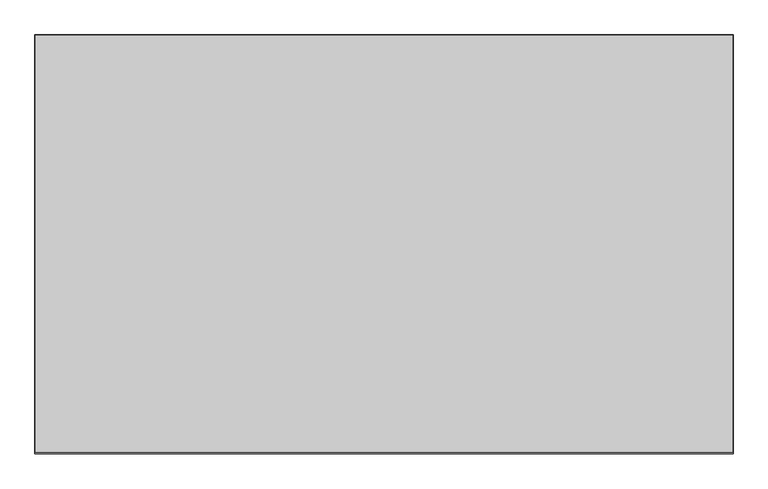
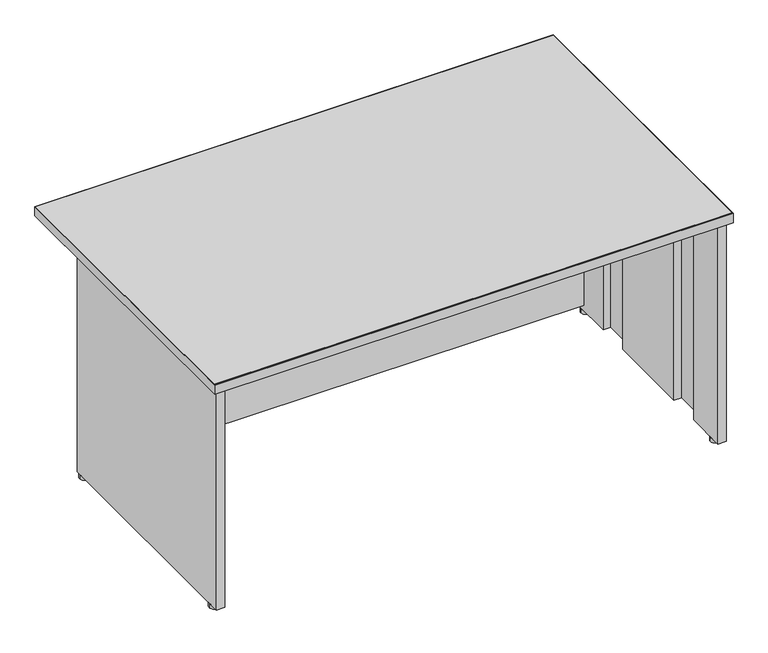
"""IFC4 building model written with IfcOpenShell, lengths in millimetres: furniture geometry, Steelcase - Kick Freestanding - Desk Shell - Full Height Modesty Panel : 36D x 60W."""

from ifc_helpers import new_model, si_unit, point, frame, frame_2d, origin, origin_with_axes, place, context, project, spatial, polyline, circle_curve, trimmed, segment, composite_curve, outline, extrude, source, transform, mapped, element, save


def furniture_0e74eb8e(model_context):
    return source(origin(), model_context, "Body", "SweptSolid", [
        extrude(outline(polyline([(677.0450425, -1152.3647597), (677.0450425, -1126.9647604), (2126.6738425, -1126.9647604), (2126.6738425, -1152.3647597), (677.0450425, -1152.3647597)])), frame((0.0, 0.0, 31.242), z_axis=(0.0, 0.0, 1.0), x_axis=(1.0, 0.0, 0.0)), (0.0, 0.0, 1.0), 663.702),
        extrude(outline(composite_curve([segment(trimmed(circle_curve(frame_2d((665.1357759, -1139.3367877)), 13.97), [point((651.1657759, -1139.3367877))], [point((679.1057759, -1139.3367877))], False, "CARTESIAN"), True, "CONTINUOUS"), segment(trimmed(circle_curve(frame_2d((665.1357759, -1139.3367877)), 13.97), [point((679.1057759, -1139.3367877))], [point((651.1657759, -1139.3367877))], False, "CARTESIAN"), True, "CONTINUOUS")], self_intersect=False)), origin_with_axes(), (0.0, 0.0, 1.0), 12.446),
        extrude(outline(composite_curve([segment(trimmed(circle_curve(frame_2d((665.1357759, -1798.4441481)), 13.97), [point((651.1657759, -1798.4441481))], [point((679.1057759, -1798.4441481))], False, "CARTESIAN"), True, "CONTINUOUS"), segment(trimmed(circle_curve(frame_2d((665.1357759, -1798.4441481)), 13.97), [point((679.1057759, -1798.4441481))], [point((651.1657759, -1798.4441481))], False, "CARTESIAN"), True, "CONTINUOUS")], self_intersect=False)), origin_with_axes(), (0.0, 0.0, 1.0), 12.446),
        extrude(outline(polyline([(2126.6738425, -1248.4529604), (2126.6738425, -1125.1867604), (2151.1594421, -1125.1867604), (2151.1594421, -1833.338741), (2126.6738421, -1833.338741), (2126.6738421, -1709.0311348), (2149.1020425, -1709.0311348), (2149.1020425, -1609.3107682), (2126.6738421, -1609.3107682), (2126.6738421, -1348.1733647), (2149.1020425, -1348.1733647), (2149.1020425, -1248.4529604), (2126.6738425, -1248.4529604)])), frame((0.0, 0.0, 12.446), z_axis=(0.0, 0.0, 1.0), x_axis=(1.0, 0.0, 0.0)), (0.0, 0.0, 1.0), 682.498),
        extrude(outline(polyline([(677.0450425, -1248.4529604), (654.6168425, -1248.4529604), (654.6168425, -1348.1733647), (677.0450429, -1348.1733647), (677.0450429, -1609.3107682), (654.6168425, -1609.3107682), (654.6168425, -1709.0311348), (677.0450429, -1709.0311348), (677.0450429, -1833.338741), (652.5594429, -1833.338741), (652.5594429, -1125.1867604), (677.0450425, -1125.1867604), (677.0450425, -1248.4529604)])), frame((0.0, 0.0, 12.446), z_axis=(0.0, 0.0, 1.0), x_axis=(1.0, 0.0, 0.0)), (0.0, 0.0, 1.0), 682.498),
        extrude(outline(polyline([(2162.8688425, -932.6293604), (2162.8688425, -1843.0669215), (640.8500425, -1843.0669215), (640.8500425, -932.6293604), (2162.8688425, -932.6293604)])), frame((0.0, 0.0, 694.944), z_axis=(0.0, 0.0, 1.0), x_axis=(1.0, 0.0, 0.0)), (0.0, 0.0, 1.0), 28.956),
        extrude(outline(polyline([(2163.8594425, -931.6387604), (2163.8594425, -1846.0387604), (639.8594425, -1846.0387604), (639.8594425, -931.6387604), (2163.8594425, -931.6387604)]), holes=[polyline([(2162.8688425, -932.6293604), (640.8500425, -932.6293604), (640.8500425, -1843.0669215), (2162.8688425, -1843.0669215), (2162.8688425, -932.6293604)])]), frame((0.0, 0.0, 694.944), z_axis=(0.0, 0.0, 1.0), x_axis=(1.0, 0.0, 0.0)), (0.0, 0.0, 1.0), 28.956),
        extrude(outline(composite_curve([segment(trimmed(circle_curve(frame_2d((2138.5831091, -1798.4441481)), 13.97), [point((2124.6131091, -1798.4441481))], [point((2152.5531091, -1798.4441481))], False, "CARTESIAN"), True, "CONTINUOUS"), segment(trimmed(circle_curve(frame_2d((2138.5831091, -1798.4441481)), 13.97), [point((2152.5531091, -1798.4441481))], [point((2124.6131091, -1798.4441481))], False, "CARTESIAN"), True, "CONTINUOUS")], self_intersect=False)), origin_with_axes(), (0.0, 0.0, 1.0), 12.446),
        extrude(outline(composite_curve([segment(trimmed(circle_curve(frame_2d((2138.5831091, -1139.3367877)), 13.97), [point((2152.5531091, -1139.3367877))], [point((2124.6131091, -1139.3367877))], False, "CARTESIAN"), True, "CONTINUOUS"), segment(trimmed(circle_curve(frame_2d((2138.5831091, -1139.3367877)), 13.97), [point((2124.6131091, -1139.3367877))], [point((2152.5531091, -1139.3367877))], False, "CARTESIAN"), True, "CONTINUOUS")], self_intersect=False)), origin_with_axes(), (0.0, 0.0, 1.0), 12.446),
    ])


if __name__ == "__main__":
    model = new_model("IFC4")
    model_context = context("Model", 3, world=origin())
    ifc_project = project(units=[si_unit("LENGTHUNIT", "METRE", prefix="MILLI")], contexts=[model_context])
    site = spatial("IfcSite", under=ifc_project)
    building = spatial("IfcBuilding", under=site)
    placement = place(None, origin())
    furniture_shape = furniture_0e74eb8e(model_context)
    element("IfcFurniture", 1, ObjectType="Steelcase - Kick Freestanding - Desk Shell - Full Height Modesty Panel : 36D x 60W", at=placement, inside=building, context=model_context, shape_type="MappedRepresentation", body=[
        mapped(furniture_shape, transform((0.0, 0.0, 0.0), x_axis=(1.0, 0.0, 0.0), y_axis=(0.0, 1.0, 0.0), z_axis=(0.0, 0.0, 1.0))),
    ])
    save(model, "model.ifc")
